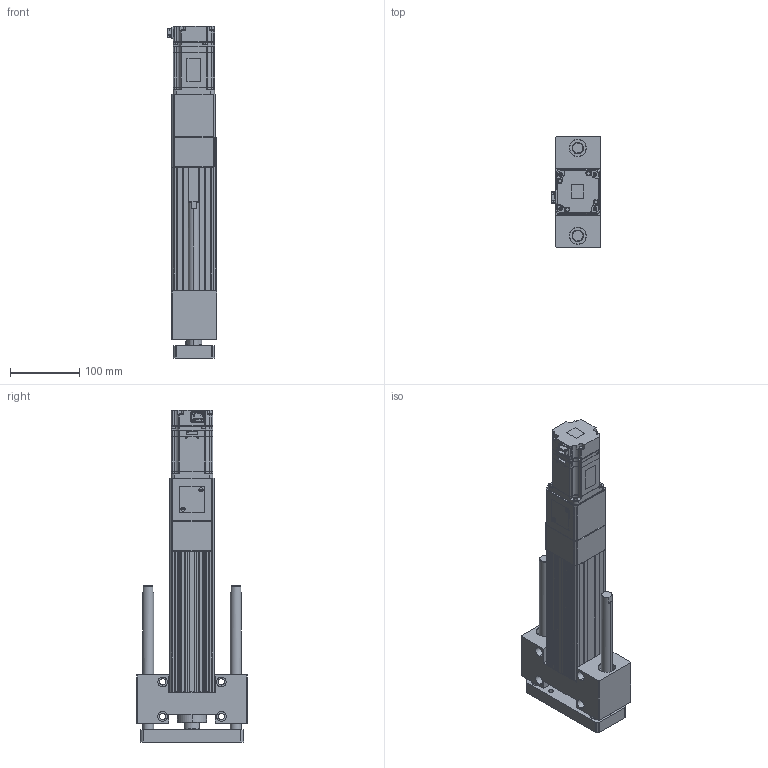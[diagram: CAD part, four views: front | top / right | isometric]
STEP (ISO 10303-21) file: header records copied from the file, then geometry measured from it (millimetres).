
FILE_DESCRIPTION (( 'STEP AP203' ), '1' );
FILE_NAME ('ANS065R-HS100-05(10)(20)-W40.STEP', '2019-03-01T09:08:06', ( 'user' ), ( '' ), 'SwSTEP 2.0', 'SolidWorks 2013', '' );
FILE_SCHEMA (( 'CONFIG_CONTROL_DESIGN' ));
Length unit declared in the file: millimetre
Products named in the file (4): ANS065 ROD ST100 G; sgmjv_04a_a21; ANS065R-HS100-05(10)(20)-W40; ANS065R HS100 VER2
Assembly tree (3 placements, depth 2):
  ANS065R-HS100-05(10)(20)-W40
    ANS065R HS100 VER2
    ANS065 ROD ST100 G
    sgmjv_04a_a21
Bounding box: 72.3 x 160 x 480.6 mm (x, y, z)
Volume: 1826389.5 mm3; surface area: 347711.7 mm2
Topology: 3 solids, 7 shells, 1236 faces, 3237 edges, 2087 vertices
Faces by surface type: plane 696, cylinder 430, cone 110
Entity records: 38235 total; most frequent: CARTESIAN_POINT 6780, DIRECTION 6559, ORIENTED_EDGE 6418, EDGE_CURVE 3209, LINE 2199, VECTOR 2199, AXIS2_PLACEMENT_3D 2180, VERTEX_POINT 2087
